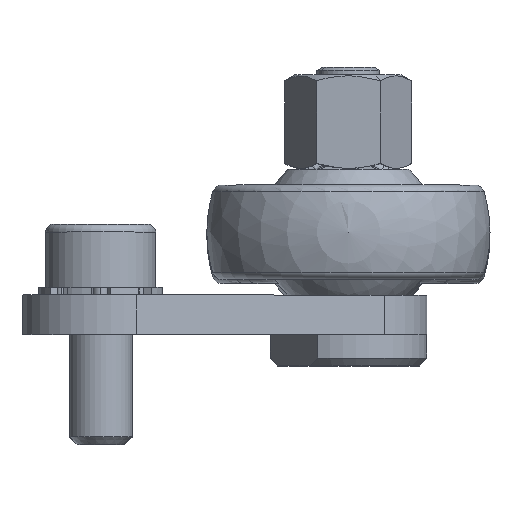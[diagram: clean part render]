
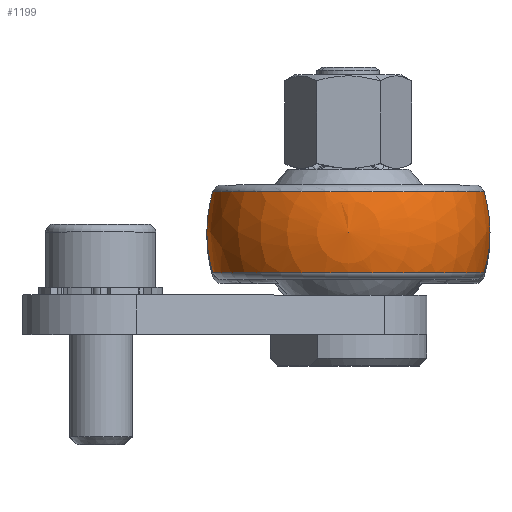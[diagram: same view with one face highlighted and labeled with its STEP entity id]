
A CAD part, top view. The second image highlights one B-rep face of the part: STEP entity #1199.
In plain terms, the highlighted spherical face has radius 9 mm.
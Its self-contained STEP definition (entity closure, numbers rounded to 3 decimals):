
#19 = CARTESIAN_POINT ( 'NONE',  ( -8.625, -2.571, 159.4 ) ) ;
#975 = VERTEX_POINT ( 'NONE', #6778 ) ;
#1199 = ADVANCED_FACE ( 'NONE', ( #10497 ), #12664, .T. ) ;
#1585 = DIRECTION ( 'NONE',  ( 0., 0., 1. ) ) ;
#2524 = VERTEX_POINT ( 'NONE', #19 ) ;
#2673 = AXIS2_PLACEMENT_3D ( 'NONE', #3408, #2997, #2916 ) ;
#2784 = CIRCLE ( 'NONE', #14968, 9. ) ;
#2833 = CARTESIAN_POINT ( 'NONE',  ( 0., 2.571, 159.4 ) ) ;
#2916 = DIRECTION ( 'NONE',  ( 0., 1., 0. ) ) ;
#2918 = CARTESIAN_POINT ( 'NONE',  ( -9., 0., 159.4 ) ) ;
#2997 = DIRECTION ( 'NONE',  ( 0., 0., 1. ) ) ;
#3223 = CARTESIAN_POINT ( 'NONE',  ( 8.625, 2.571, 159.4 ) ) ;
#3408 = CARTESIAN_POINT ( 'NONE',  ( 0., 0., 159.4 ) ) ;
#3497 = CIRCLE ( 'NONE', #12667, 8.625 ) ;
#3907 = EDGE_CURVE ( 'NONE', #6952, #7395, #9742, .T. ) ;
#3999 = ORIENTED_EDGE ( 'NONE', *, *, #11908, .T. ) ;
#4150 = EDGE_CURVE ( 'NONE', #4671, #975, #8626, .T. ) ;
#4269 = CARTESIAN_POINT ( 'NONE',  ( 0., 0., 159.4 ) ) ;
#4520 = DIRECTION ( 'NONE',  ( 0., -1., 0. ) ) ;
#4532 = EDGE_CURVE ( 'NONE', #9170, #7395, #2784, .T. ) ;
#4543 = DIRECTION ( 'NONE',  ( 0., 0., 1. ) ) ;
#4578 = CARTESIAN_POINT ( 'NONE',  ( 0., 0., 159.4 ) ) ;
#4671 = VERTEX_POINT ( 'NONE', #2918 ) ;
#5583 = AXIS2_PLACEMENT_3D ( 'NONE', #15262, #10431, #11701 ) ;
#6702 = CIRCLE ( 'NONE', #13924, 9. ) ;
#6778 = CARTESIAN_POINT ( 'NONE',  ( -8.625, 2.571, 159.4 ) ) ;
#6952 = VERTEX_POINT ( 'NONE', #3223 ) ;
#7395 = VERTEX_POINT ( 'NONE', #14635 ) ;
#7527 = ORIENTED_EDGE ( 'NONE', *, *, #4532, .T. ) ;
#8094 = DIRECTION ( 'NONE',  ( 0., -1., 0. ) ) ;
#8248 = ORIENTED_EDGE ( 'NONE', *, *, #3907, .F. ) ;
#8626 = CIRCLE ( 'NONE', #5583, 9. ) ;
#8999 = ORIENTED_EDGE ( 'NONE', *, *, #4150, .F. ) ;
#9170 = VERTEX_POINT ( 'NONE', #12089 ) ;
#9742 = CIRCLE ( 'NONE', #11792, 9. ) ;
#9970 = CIRCLE ( 'NONE', #12412, 8.625 ) ;
#10431 = DIRECTION ( 'NONE',  ( 0., 0., -1. ) ) ;
#10497 = FACE_OUTER_BOUND ( 'NONE', #13743, .T. ) ;
#10779 = ORIENTED_EDGE ( 'NONE', *, *, #16048, .T. ) ;
#11701 = DIRECTION ( 'NONE',  ( -1., 0., 0. ) ) ;
#11792 = AXIS2_PLACEMENT_3D ( 'NONE', #14236, #14217, #14190 ) ;
#11908 = EDGE_CURVE ( 'NONE', #2524, #9170, #3497, .T. ) ;
#12089 = CARTESIAN_POINT ( 'NONE',  ( 8.625, -2.571, 159.4 ) ) ;
#12412 = AXIS2_PLACEMENT_3D ( 'NONE', #2833, #14381, #1585 ) ;
#12664 = SPHERICAL_SURFACE ( 'NONE', #2673, 9. ) ;
#12667 = AXIS2_PLACEMENT_3D ( 'NONE', #12994, #12970, #12943 ) ;
#12943 = DIRECTION ( 'NONE',  ( 1., 0., 0. ) ) ;
#12970 = DIRECTION ( 'NONE',  ( 0., 1., 0. ) ) ;
#12994 = CARTESIAN_POINT ( 'NONE',  ( 0., -2.571, 159.4 ) ) ;
#13743 = EDGE_LOOP ( 'NONE', ( #8999, #15499, #3999, #7527, #8248, #10779 ) ) ;
#13924 = AXIS2_PLACEMENT_3D ( 'NONE', #4269, #14421, #8094 ) ;
#14190 = DIRECTION ( 'NONE',  ( -1., 0., 0. ) ) ;
#14217 = DIRECTION ( 'NONE',  ( 0., 0., -1. ) ) ;
#14236 = CARTESIAN_POINT ( 'NONE',  ( 0., 0., 159.4 ) ) ;
#14381 = DIRECTION ( 'NONE',  ( 0., -1., 0. ) ) ;
#14421 = DIRECTION ( 'NONE',  ( 0., 0., 1. ) ) ;
#14635 = CARTESIAN_POINT ( 'NONE',  ( 9., 0., 159.4 ) ) ;
#14968 = AXIS2_PLACEMENT_3D ( 'NONE', #4578, #4543, #4520 ) ;
#15262 = CARTESIAN_POINT ( 'NONE',  ( 0., 0., 159.4 ) ) ;
#15344 = EDGE_CURVE ( 'NONE', #4671, #2524, #6702, .T. ) ;
#15499 = ORIENTED_EDGE ( 'NONE', *, *, #15344, .T. ) ;
#16048 = EDGE_CURVE ( 'NONE', #6952, #975, #9970, .T. ) ;
